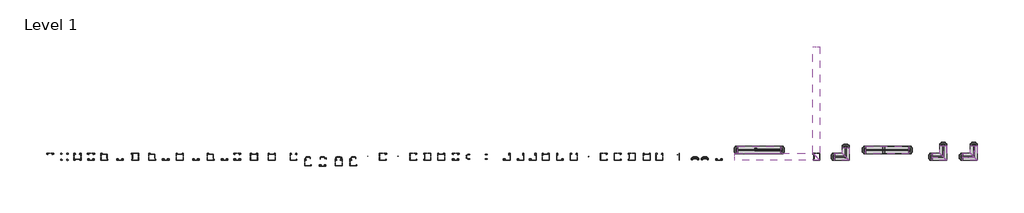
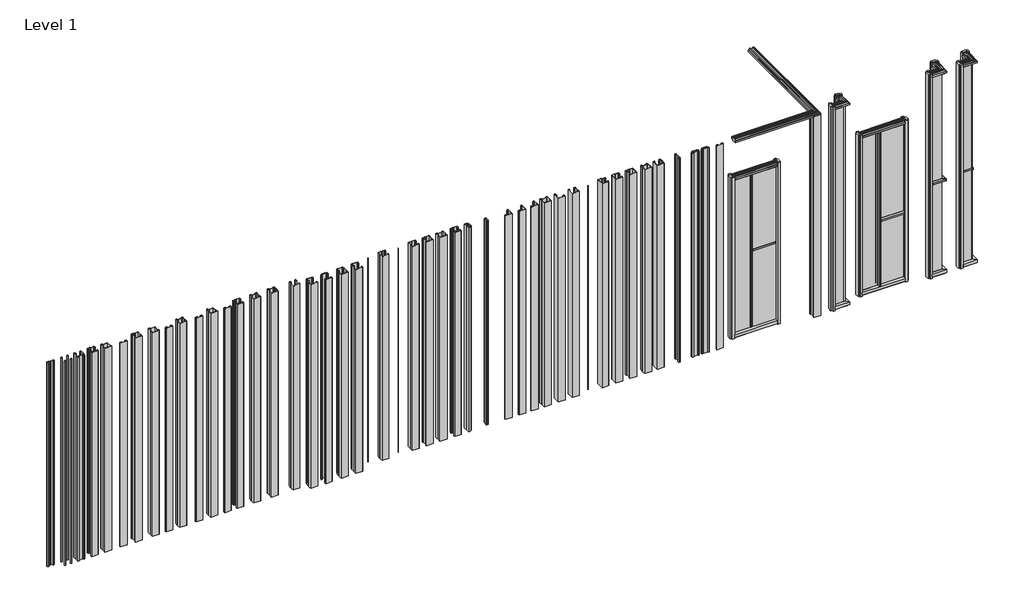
# One storey, incomplete: 56 proxies, 26 members, 8 plates.
"""IFC4 building model written with IfcOpenShell, lengths in millimetres."""

from ifc_helpers import new_model, si_unit, origin, place, context, project, spatial, transform, mapped, element, save
from components import specialty_equipment_b94d245f, specialty_equipment_ea2fe624, proxy_9eafbba1, proxy_e6fe210e, proxy_12dd4dbe, proxy_998302b4, proxy_84fde4b8, proxy_25b1dbf0, proxy_bac09f52, adjustable_wall_start_faf12ad4, four_way_corner_8f550bc9, four_way_corner_5c2fb71b, four_way_corner_39b8d94a, three_way_corner_fe799c1e, three_way_corner_d6935a31, three_way_corner_fe4747e2, three_way_corner_7945eaf1, three_way_corner_3e60445e, three_way_corner_72895751, three_way_corner_51c922a8, three_way_corner_6a6f1a06, three_way_corner_eebd27aa, three_way_corner_18708fa8, three_way_corner_7981b0c4, three_way_corner_01890268, three_way_corner_c96b7194, two_way_corner_7eccfd8a, two_way_corner_8ffb6a9a, two_way_corner_f09944fd, two_way_corner_8ae697bf, two_way_corner_glass_c5241fdb, two_way_corner_b0e117d9, two_way_corner_f22c8f03, two_way_corner_91326013, two_way_corner_door_7322761b, two_way_corner_glass_e2119c69, wall_end_e3b99592, rectangular_mullion_f105aa23, rectangular_mullion_df59ae26, rectangular_mullion_9636eab6, rectangular_mullion_f3ed77f7, rectangular_mullion_d365c215, rectangular_mullion_94d12410, rectangular_mullion_07ef781c, rectangular_mullion_2ec5124e, rectangular_mullion_b762e609, rectangular_mullion_7787aef6, fzg_35d74fef, fzg_7c3ae848, fzg_a8049be1

model = new_model("IFC4")

# Units and contexts
model_context = context("Model", 3, world=origin())
ifc_project = project(units=[si_unit("LENGTHUNIT", "METRE", prefix="MILLI")], contexts=[model_context])

# Site, building, storey
site = spatial("IfcSite", under=ifc_project)
building = spatial("IfcBuilding", under=site)
storey = spatial("IfcBuildingStorey", under=building, Name="Level 1", Elevation=0.0)

# Proxies
placement = place(None, origin())
specialty_equipment_shape = specialty_equipment_b94d245f(model_context)
element("IfcBuildingElementProxy", 1, Name="Mullion-Ceiling_Top_Spacer-Teknion-OptoLP-45º_Corner : FZFP and FYFC", ObjectType="Mullion-Ceiling_Top_Spacer-Teknion-OptoLP-45º_Corner : FZFP and FYFC", at=placement, inside=storey, context=model_context, shape_type="MappedRepresentation", body=[
    mapped(specialty_equipment_shape, transform((4725.8864881, 1727.616931, 2985.389), x_axis=(0.0, 1.0000000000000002, 0.0), y_axis=(-1.0000000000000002, 0.0, 0.0), z_axis=(0.0, 0.0, 1.0))),
])
specialty_equipment_2_shape = specialty_equipment_ea2fe624(model_context)
element("IfcBuildingElementProxy", 2, Name="Mullion-Ceiling_Top_Spacer-Teknion-OptoLP-45º_Corner : FZFP and FYFC", ObjectType="Mullion-Ceiling_Top_Spacer-Teknion-OptoLP-45º_Corner : FZFP and FYFC", at=placement, inside=storey, context=model_context, shape_type="MappedRepresentation", body=[
    mapped(specialty_equipment_2_shape, transform((4802.861326, 1804.578931, 2985.391839), x_axis=(-1.0, 0.0, 0.0), y_axis=(0.0, -1.0, 0.0), z_axis=(0.0, 0.0, 1.0))),
])
proxy_shape = proxy_9eafbba1(model_context)
element("IfcBuildingElementProxy", 3, Name="Frame-Teknion-Architectural_Complements-FCMV_1x1_Corner_Mullion-R2018 : 1\" x 1\" Corner Mullion", ObjectType="Frame-Teknion-Architectural_Complements-FCMV_1x1_Corner_Mullion-R2018 : 1\" x 1\" Corner Mullion", at=placement, inside=storey, context=model_context, shape_type="MappedRepresentation", body=[
    mapped(proxy_shape, transform((5218.9016423, 1722.613131, 1530.4556931), x_axis=(-1.0, 0.0, 0.0), y_axis=(0.0, 0.0, -1.0), z_axis=(0.0, -1.0, 0.0))),
])
proxy_2_shape = proxy_e6fe210e(model_context)
element("IfcBuildingElementProxy", 4, Name="Frame-Teknion-Architectural_Complements-FCMN_1x1_Mullion-R2016 : 1\" x 1\" Inline Mullion", ObjectType="Frame-Teknion-Architectural_Complements-FCMN_1x1_Mullion-R2016 : 1\" x 1\" Inline Mullion", at=placement, inside=storey, context=model_context, shape_type="MappedRepresentation", body=[
    mapped(proxy_2_shape, transform((4131.2860808, 1817.863131, 1203.4641751), x_axis=(0.0, 0.0, -1.0), y_axis=(1.0, 0.0, 0.0), z_axis=(0.0, -1.0, 0.0))),
])
proxy_3_shape = proxy_12dd4dbe(model_context)
element("IfcBuildingElementProxy", 5, Name="Frame-Teknion-Architectural_Complements-FCMN_1x1_Mullion-R2016 : 1\" x 1\" Inline Mullion", ObjectType="Frame-Teknion-Architectural_Complements-FCMN_1x1_Mullion-R2016 : 1\" x 1\" Inline Mullion", at=placement, inside=storey, context=model_context, shape_type="MappedRepresentation", body=[
    mapped(proxy_3_shape, transform((3950.2478423, 1817.863131, 1203.4641751), x_axis=(-1.0, 0.0, 0.0), y_axis=(0.0, 0.0, -1.0), z_axis=(0.0, -1.0, 0.0))),
])
proxy_4_shape = proxy_998302b4(model_context)
element("IfcBuildingElementProxy", 6, Name="Frame-Teknion-Architectural_Complements-FCMH_1x1_Mullion_Horizontal_Corner-R2018 : 1\" x 1\" Mullion Horizontal Corner Kit", ObjectType="Frame-Teknion-Architectural_Complements-FCMH_1x1_Mullion_Horizontal_Corner-R2018 : 1\" x 1\" Mullion Horizontal Corner Kit", at=placement, inside=storey, context=model_context, shape_type="MappedRepresentation", body=[
    mapped(proxy_4_shape, transform((7023.8638825, 1722.613131, 1408.4082097), x_axis=(0.0, 0.0, -1.0), y_axis=(1.0, 0.0, 0.0), z_axis=(0.0, -1.0, 0.0))),
])
proxy_5_shape = proxy_84fde4b8(model_context)
element("IfcBuildingElementProxy", 7, Name="Frame-Teknion-Architectural_Complements-FCMZ_4x1_Mullion_Horizontal_Corner-R2018 : 4\" x 1\" Horizontal Corner Kit", ObjectType="Frame-Teknion-Architectural_Complements-FCMZ_4x1_Mullion_Horizontal_Corner-R2018 : 4\" x 1\" Horizontal Corner Kit", at=placement, inside=storey, context=model_context, shape_type="MappedRepresentation", body=[
    mapped(proxy_5_shape, transform((6590.5969548, 1722.613131, 1400.4096021), x_axis=(0.0, 0.0, -1.0), y_axis=(1.0, 0.0, 0.0), z_axis=(0.0, -1.0, 0.0))),
])
proxy_6_shape = proxy_25b1dbf0(model_context)
element("IfcBuildingElementProxy", 8, Name="Frame-Teknion-Architectural_Complements-FCMI_4x1_Mullion-R2016 : 4\" x 1\" Inline Mullion", ObjectType="Frame-Teknion-Architectural_Complements-FCMI_4x1_Mullion-R2016 : 4\" x 1\" Inline Mullion", at=placement, inside=storey, context=model_context, shape_type="MappedRepresentation", body=[
    mapped(proxy_6_shape, transform((5749.2822173, 1817.863131, 1203.4242187), x_axis=(-1.0, 0.0, 0.0), y_axis=(0.0, 0.0, -1.0), z_axis=(0.0, -1.0, 0.0))),
])
proxy_7_shape = proxy_bac09f52(model_context)
element("IfcBuildingElementProxy", 9, Name="Frame-Teknion-Architectural_Complements-FCMI_4x1_Mullion-R2016 : 4\" x 1\" Inline Mullion", ObjectType="Frame-Teknion-Architectural_Complements-FCMI_4x1_Mullion-R2016 : 4\" x 1\" Inline Mullion", at=placement, inside=storey, context=model_context, shape_type="MappedRepresentation", body=[
    mapped(proxy_7_shape, transform((5932.8871464, 1817.863131, 1035.7670467), x_axis=(0.0, 0.0, 1.0), y_axis=(-1.0, 0.0, 0.0), z_axis=(0.0, -1.0, 0.0))),
])
adjustable_wall_start_shape = adjustable_wall_start_faf12ad4(model_context)
element("IfcBuildingElementProxy", 10, Name="Connection-Wall_Start-Teknion-Optos-FZWS-R2021 : Adjustable Wall Start", ObjectType="Connection-Wall_Start-Teknion-Optos-FZWS-R2021 : Adjustable Wall Start", at=placement, inside=storey, context=model_context, shape_type="MappedRepresentation", body=[
    mapped(adjustable_wall_start_shape, transform((3095.6598109, 1727.616931, 0.0), x_axis=(0.0, -1.0, 0.0), y_axis=(1.0, 0.0, 0.0), z_axis=(0.0, 0.0, 1.0))),
])
element("IfcBuildingElementProxy", 11, Name="Connection-Wall_Start-Teknion-Optos-FXWS-R2021 : Adjustable Wall Start", ObjectType="Connection-Wall_Start-Teknion-Optos-FXWS-R2021 : Adjustable Wall Start", at=placement, inside=storey, context=model_context, shape_type="MappedRepresentation", body=[
    mapped(adjustable_wall_start_shape, transform((3234.0597522, 1727.616931, 0.0), x_axis=(0.0, -1.0, 0.0), y_axis=(1.0, 0.0, 0.0), z_axis=(0.0, 0.0, 1.0))),
])
four_way_corner_shape = four_way_corner_8f550bc9(model_context)
element("IfcBuildingElementProxy", 12, Name="Connection-Corner-Teknion-OptosLP-Four_Way_FZCA4B_B : Four Way Corner", ObjectType="Connection-Corner-Teknion-OptosLP-Four_Way_FZCA4B_B : Four Way Corner", at=placement, inside=storey, context=model_context, shape_type="MappedRepresentation", body=[
    mapped(four_way_corner_shape, transform((-5973.3291008, 1727.616931, 939.8), x_axis=(1.0, 0.0, 0.0), y_axis=(0.0, 1.0, 0.0), z_axis=(0.0, 0.0, 1.0))),
])
four_way_corner_2_shape = four_way_corner_5c2fb71b(model_context)
element("IfcBuildingElementProxy", 13, Name="Connection-Corner-Teknion-OptosLP-Four_Way_FZCA4B_D : Four Way Corner", ObjectType="Connection-Corner-Teknion-OptosLP-Four_Way_FZCA4B_D : Four Way Corner", at=placement, inside=storey, context=model_context, shape_type="MappedRepresentation", body=[
    mapped(four_way_corner_2_shape, transform((-5772.10044, 1727.616931, 0.0), x_axis=(1.0, 0.0, 0.0), y_axis=(0.0, 1.0, 0.0), z_axis=(0.0, 0.0, 1.0))),
])
four_way_corner_3_shape = four_way_corner_39b8d94a(model_context)
element("IfcBuildingElementProxy", 14, Name="Connection-Corner-Teknion-OptosLP-Four_Way_FZCA4B_G : Four Way Corner", ObjectType="Connection-Corner-Teknion-OptosLP-Four_Way_FZCA4B_G : Four Way Corner", at=placement, inside=storey, context=model_context, shape_type="MappedRepresentation", body=[
    mapped(four_way_corner_3_shape, transform((-5588.9323759, 1727.616931, 0.0), x_axis=(1.0, 0.0, 0.0), y_axis=(0.0, 1.0, 0.0), z_axis=(0.0, 0.0, 1.0))),
])
three_way_corner_shape = three_way_corner_fe799c1e(model_context)
element("IfcBuildingElementProxy", 15, Name="Connection-Corner-Teknion-OptosLP-Three_Way_FZCA3A_B : Three Way Corner", ObjectType="Connection-Corner-Teknion-OptosLP-Three_Way_FZCA3A_B : Three Way Corner", at=placement, inside=storey, context=model_context, shape_type="MappedRepresentation", body=[
    mapped(three_way_corner_shape, transform((-5397.6833678, 1727.616931, 0.0), x_axis=(1.0, 0.0, 0.0), y_axis=(0.0, 1.0, 0.0), z_axis=(0.0, 0.0, 1.0))),
])
three_way_corner_2_shape = three_way_corner_d6935a31(model_context)
element("IfcBuildingElementProxy", 16, Name="Connection-Corner-Teknion-OptosLP-Three_Way_FZCA3A_C : Three Way Corner", ObjectType="Connection-Corner-Teknion-OptosLP-Three_Way_FZCA3A_C : Three Way Corner", at=placement, inside=storey, context=model_context, shape_type="MappedRepresentation", body=[
    mapped(three_way_corner_2_shape, transform((-5207.7811837, 1727.616931, 0.0), x_axis=(1.0, 0.0, 0.0), y_axis=(0.0, 1.0, 0.0), z_axis=(0.0, 0.0, 1.0))),
])
three_way_corner_3_shape = three_way_corner_fe4747e2(model_context)
element("IfcBuildingElementProxy", 17, Name="Connection-Corner-Teknion-OptosLP-Three_Way_FZCA3A_D : Three Way Corner", ObjectType="Connection-Corner-Teknion-OptosLP-Three_Way_FZCA3A_D : Three Way Corner", at=placement, inside=storey, context=model_context, shape_type="MappedRepresentation", body=[
    mapped(three_way_corner_3_shape, transform((-4989.5542891, 1727.616931, 0.0), x_axis=(1.0, 0.0, 0.0), y_axis=(0.0, 1.0, 0.0), z_axis=(0.0, 0.0, 1.0))),
])
three_way_corner_4_shape = three_way_corner_7945eaf1(model_context)
element("IfcBuildingElementProxy", 18, Name="Connection-Corner-Teknion-OptosLP-Three_Way_FZCA3A_G : Three Way Corner", ObjectType="Connection-Corner-Teknion-OptosLP-Three_Way_FZCA3A_G : Three Way Corner", at=placement, inside=storey, context=model_context, shape_type="MappedRepresentation", body=[
    mapped(three_way_corner_4_shape, transform((-4779.9055692, 1727.616931, 0.0), x_axis=(1.0, 0.0, 0.0), y_axis=(0.0, 1.0, 0.0), z_axis=(0.0, 0.0, 1.0))),
])
element("IfcBuildingElementProxy", 19, Name="Connection-Corner-Teknion-OptosLP-Three_Way_FZCA3B_B : Three Way Corner", ObjectType="Connection-Corner-Teknion-OptosLP-Three_Way_FZCA3B_B : Three Way Corner", at=placement, inside=storey, context=model_context, shape_type="MappedRepresentation", body=[
    mapped(three_way_corner_2_shape, transform((-4534.9227953, 1727.616931, 0.0), x_axis=(1.0, 0.0, 0.0), y_axis=(0.0, 1.0, 0.0), z_axis=(0.0, 0.0, 1.0))),
])
element("IfcBuildingElementProxy", 20, Name="Connection-Corner-Teknion-OptosLP-Three_Way_FZCA3B_D : Three Way Corner", ObjectType="Connection-Corner-Teknion-OptosLP-Three_Way_FZCA3B_D : Three Way Corner", at=placement, inside=storey, context=model_context, shape_type="MappedRepresentation", body=[
    mapped(three_way_corner_3_shape, transform((-4346.8690713, 1727.616931, 0.0), x_axis=(1.0, 0.0, 0.0), y_axis=(0.0, 1.0, 0.0), z_axis=(0.0, 0.0, 1.0))),
])
three_way_corner_5_shape = three_way_corner_3e60445e(model_context)
element("IfcBuildingElementProxy", 21, Name="Connection-Corner-Teknion-OptosLP-Three_Way_FZCA3B_G : Three Way Corner", ObjectType="Connection-Corner-Teknion-OptosLP-Three_Way_FZCA3B_G : Three Way Corner", at=placement, inside=storey, context=model_context, shape_type="MappedRepresentation", body=[
    mapped(three_way_corner_5_shape, transform((-4150.2296929, 1727.616931, 0.0), x_axis=(1.0, 0.0, 0.0), y_axis=(0.0, 1.0, 0.0), z_axis=(0.0, 0.0, 1.0))),
])
element("IfcBuildingElementProxy", 22, Name="Connection-Corner-Teknion-OptosLP-Three_Way_FZCA3C_D : Three Way Corner", ObjectType="Connection-Corner-Teknion-OptosLP-Three_Way_FZCA3C_D : Three Way Corner", at=placement, inside=storey, context=model_context, shape_type="MappedRepresentation", body=[
    mapped(three_way_corner_3_shape, transform((-3922.7693131, 1727.616931, 0.0), x_axis=(1.0, 0.0, 0.0), y_axis=(0.0, 1.0, 0.0), z_axis=(0.0, 0.0, 1.0))),
])
element("IfcBuildingElementProxy", 23, Name="Connection-Corner-Teknion-OptosLP-Three_Way_FZCA3C_G : Three Way Corner", ObjectType="Connection-Corner-Teknion-OptosLP-Three_Way_FZCA3C_G : Three Way Corner", at=placement, inside=storey, context=model_context, shape_type="MappedRepresentation", body=[
    mapped(three_way_corner_2_shape, transform((-3712.9804706, 1727.616931, 0.0), x_axis=(1.0, 0.0, 0.0), y_axis=(0.0, 1.0, 0.0), z_axis=(0.0, 0.0, 1.0))),
])
element("IfcBuildingElementProxy", 24, Name="Connection-Corner-Teknion-OptosLP-Three_Way_FZCA3D_D : Three Way Corner", ObjectType="Connection-Corner-Teknion-OptosLP-Three_Way_FZCA3D_D : Three Way Corner", at=placement, inside=storey, context=model_context, shape_type="MappedRepresentation", body=[
    mapped(three_way_corner_3_shape, transform((-3519.4859072, 1727.616931, 0.0), x_axis=(1.0, 0.0, 0.0), y_axis=(0.0, 1.0, 0.0), z_axis=(0.0, 0.0, 1.0))),
])
element("IfcBuildingElementProxy", 25, Name="Connection-Corner-Teknion-OptosLP-Three_Way_FZCA3D_G : Three Way Corner", ObjectType="Connection-Corner-Teknion-OptosLP-Three_Way_FZCA3D_G : Three Way Corner", at=placement, inside=storey, context=model_context, shape_type="MappedRepresentation", body=[
    mapped(three_way_corner_shape, transform((-3342.2856227, 1727.616931, 0.0), x_axis=(1.0, 0.0, 0.0), y_axis=(0.0, 1.0, 0.0), z_axis=(0.0, 0.0, 1.0))),
])
three_way_corner_6_shape = three_way_corner_72895751(model_context)
element("IfcBuildingElementProxy", 26, Name="Connection-Corner-Teknion-OptosLP-Three_Way_FZCA3E_S : Three Way Corner", ObjectType="Connection-Corner-Teknion-OptosLP-Three_Way_FZCA3E_S : Three Way Corner", at=placement, inside=storey, context=model_context, shape_type="MappedRepresentation", body=[
    mapped(three_way_corner_6_shape, transform((-2549.9212336, 1727.616931, 0.0), x_axis=(1.0, 0.0, 0.0), y_axis=(0.0, 1.0, 0.0), z_axis=(0.0, 0.0, 1.0))),
])
three_way_corner_7_shape = three_way_corner_51c922a8(model_context)
element("IfcBuildingElementProxy", 27, Name="Connection-Corner-Teknion-OptosLP-Three_Way_FZCD3_A : Three Way Corner", ObjectType="Connection-Corner-Teknion-OptosLP-Three_Way_FZCD3_A : Three Way Corner", at=placement, inside=storey, context=model_context, shape_type="MappedRepresentation", body=[
    mapped(three_way_corner_7_shape, transform((-2347.3120579, 1648.7797242, 0.0), x_axis=(1.0, 0.0, 0.0), y_axis=(0.0, 1.0, 0.0), z_axis=(0.0, 0.0, 1.0))),
])
three_way_corner_8_shape = three_way_corner_6a6f1a06(model_context)
element("IfcBuildingElementProxy", 28, Name="Connection-Corner-Teknion-OptosLP-Three_Way_FZCD3_B : Three Way Corner", ObjectType="Connection-Corner-Teknion-OptosLP-Three_Way_FZCD3_B : Three Way Corner", at=placement, inside=storey, context=model_context, shape_type="MappedRepresentation", body=[
    mapped(three_way_corner_8_shape, transform((-2141.1894282, 1644.3513139, 0.0), x_axis=(1.0, 0.0, 0.0), y_axis=(0.0, 1.0, 0.0), z_axis=(0.0, 0.0, 1.0))),
])
three_way_corner_9_shape = three_way_corner_eebd27aa(model_context)
element("IfcBuildingElementProxy", 29, Name="Connection-Corner-Teknion-OptosLP-Three_Way_FZCD3_G : Three Way Corner", ObjectType="Connection-Corner-Teknion-OptosLP-Three_Way_FZCD3_G : Three Way Corner", at=placement, inside=storey, context=model_context, shape_type="MappedRepresentation", body=[
    mapped(three_way_corner_9_shape, transform((-1915.7362077, 1649.1390961, 0.0), x_axis=(1.0, 0.0, 0.0), y_axis=(0.0, 1.0, 0.0), z_axis=(0.0, 0.0, 1.0))),
])
three_way_corner_10_shape = three_way_corner_18708fa8(model_context)
element("IfcBuildingElementProxy", 30, Name="Connection-Corner-Teknion-OptosLP-Three_Way_FZCY3_E : Three Way Corner", ObjectType="Connection-Corner-Teknion-OptosLP-Three_Way_FZCY3_E : Three Way Corner", at=placement, inside=storey, context=model_context, shape_type="MappedRepresentation", body=[
    mapped(three_way_corner_10_shape, transform((-1291.8744567, 1727.616931, 0.0), x_axis=(1.0, 0.0, 0.0), y_axis=(0.0, 1.0, 0.0), z_axis=(0.0, 0.0, 1.0))),
])
element("IfcBuildingElementProxy", 31, Name="Connection-Corner-Teknion-OptosLP-Three_Way_FZCY3E_S : Three Way Corner", ObjectType="Connection-Corner-Teknion-OptosLP-Three_Way_FZCY3E_S : Three Way Corner", at=placement, inside=storey, context=model_context, shape_type="MappedRepresentation", body=[
    mapped(three_way_corner_10_shape, transform((-864.4042304, 1727.616931, 0.0), x_axis=(1.0, 0.0, 0.0), y_axis=(0.0, 1.0, 0.0), z_axis=(0.0, 0.0, 1.0))),
])
element("IfcBuildingElementProxy", 32, Name="Connection-Corner-Teknion-OptosLP-Three_Way_FZCZ3A : Three Way Corner", ObjectType="Connection-Corner-Teknion-OptosLP-Three_Way_FZCZ3A : Three Way Corner", at=placement, inside=storey, context=model_context, shape_type="MappedRepresentation", body=[
    mapped(three_way_corner_4_shape, transform((-669.9931138, 1727.616931, 0.0), x_axis=(1.0, 0.0, 0.0), y_axis=(0.0, 1.0, 0.0), z_axis=(0.0, 0.0, 1.0))),
])
element("IfcBuildingElementProxy", 33, Name="Connection-Corner-Teknion-OptosLP-Three_Way_FZCZ3A_C : Three Way Corner", ObjectType="Connection-Corner-Teknion-OptosLP-Three_Way_FZCZ3A_C : Three Way Corner", at=placement, inside=storey, context=model_context, shape_type="MappedRepresentation", body=[
    mapped(three_way_corner_5_shape, transform((-474.4108458, 1727.616931, 0.0), x_axis=(1.0, 0.0, 0.0), y_axis=(0.0, 1.0, 0.0), z_axis=(0.0, 0.0, 1.0))),
])
three_way_corner_11_shape = three_way_corner_7981b0c4(model_context)
element("IfcBuildingElementProxy", 34, Name="Connection-Corner-Teknion-OptosLP-Three_Way_FZCZ3B : Three Way Corner", ObjectType="Connection-Corner-Teknion-OptosLP-Three_Way_FZCZ3B : Three Way Corner", at=placement, inside=storey, context=model_context, shape_type="MappedRepresentation", body=[
    mapped(three_way_corner_11_shape, transform((-270.6305187, 1727.616931, 0.0), x_axis=(1.0, 0.0, 0.0), y_axis=(0.0, 1.0, 0.0), z_axis=(0.0, 0.0, 1.0))),
])
element("IfcBuildingElementProxy", 35, Name="Connection-Corner-Teknion-OptosLP-Three_Way_FZCD3E : Three Way Corner", ObjectType="Connection-Corner-Teknion-OptosLP-Three_Way_FZCD3E : Three Way Corner", at=placement, inside=storey, context=model_context, shape_type="MappedRepresentation", body=[
    mapped(three_way_corner_7_shape, transform((-1708.7055663, 1648.7797242, 0.0), x_axis=(1.0, 0.0, 0.0), y_axis=(0.0, 1.0, 0.0), z_axis=(0.0, 0.0, 1.0))),
])
three_way_corner_12_shape = three_way_corner_01890268(model_context)
element("IfcBuildingElementProxy", 36, Name="Connection-Corner-Teknion-OptosLP-Three_Way_FZCY3 : Three Way Corner", ObjectType="Connection-Corner-Teknion-OptosLP-Three_Way_FZCY3 : Three Way Corner", at=placement, inside=storey, context=model_context, shape_type="MappedRepresentation", body=[
    mapped(three_way_corner_12_shape, transform((-1506.1951456, 1727.616931, 0.0), x_axis=(1.0, 0.0, 0.0), y_axis=(0.0, 1.0, 0.0), z_axis=(0.0, 0.0, 1.0))),
])
three_way_corner_13_shape = three_way_corner_c96b7194(model_context)
element("IfcBuildingElementProxy", 37, Name="Connection-Corner-Teknion-OptosLP-Three_Way_FZCY3D : Three Way Corner", ObjectType="Connection-Corner-Teknion-OptosLP-Three_Way_FZCY3D : Three Way Corner", at=placement, inside=storey, context=model_context, shape_type="MappedRepresentation", body=[
    mapped(three_way_corner_13_shape, transform((-1081.0672218, 1727.616931, 0.0), x_axis=(1.0, 0.0, 0.0), y_axis=(0.0, 1.0, 0.0), z_axis=(0.0, 0.0, 1.0))),
])
element("IfcBuildingElementProxy", 38, Name="Connection-Corner-Teknion-OptosLP-Three_Way_FZCA3C_B : Three Way Corner", ObjectType="Connection-Corner-Teknion-OptosLP-Three_Way_FZCA3C_B : Three Way Corner", at=placement, inside=storey, context=model_context, shape_type="MappedRepresentation", body=[
    mapped(three_way_corner_3_shape, transform((3433.1545313, 1727.616931, 0.0), x_axis=(1.0, 0.0, 0.0), y_axis=(0.0, 1.0, 0.0), z_axis=(0.0, 0.0, 1.0))),
])
element("IfcBuildingElementProxy", 39, Name="Connection-Corner-Teknion-OptosLP-Three_Way_FZCA3E_E : Three Way Corner, One Door", ObjectType="Connection-Corner-Teknion-OptosLP-Three_Way_FZCA3E_E : Three Way Corner, One Door", at=placement, inside=storey, context=model_context, shape_type="MappedRepresentation", body=[
    mapped(three_way_corner_5_shape, transform((-3105.895606, 1727.616931, 0.0), x_axis=(1.0, 0.0, 0.0), y_axis=(0.0, 1.0, 0.0), z_axis=(0.0, 0.0, 1.0))),
])
element("IfcBuildingElementProxy", 40, Name="Connection-Corner-Teknion-OptosLP-Three_Way_FZCA3E_E : Three Way Corner, Two Doors", ObjectType="Connection-Corner-Teknion-OptosLP-Three_Way_FZCA3E_E : Three Way Corner, Two Doors", at=placement, inside=storey, context=model_context, shape_type="MappedRepresentation", body=[
    mapped(three_way_corner_5_shape, transform((-2856.3899919, 1727.616931, 0.0), x_axis=(1.0, 0.0, 0.0), y_axis=(0.0, 1.0, 0.0), z_axis=(0.0, 0.0, 1.0))),
])
two_way_corner_shape = two_way_corner_7eccfd8a(model_context)
element("IfcBuildingElementProxy", 41, Name="Connection-Corner-Teknion-OptosLP-Two_Way_FZCD2_D : Two Way Corner", ObjectType="Connection-Corner-Teknion-OptosLP-Two_Way_FZCD2_D : Two Way Corner", at=placement, inside=storey, context=model_context, shape_type="MappedRepresentation", body=[
    mapped(two_way_corner_shape, transform((1197.6077953, 1727.616931, 0.0), x_axis=(1.0, 0.0, 0.0), y_axis=(0.0, 1.0, 0.0), z_axis=(0.0, 0.0, 1.0))),
])
two_way_corner_2_shape = two_way_corner_8ffb6a9a(model_context)
element("IfcBuildingElementProxy", 42, Name="Connection-Corner-Teknion-OptosLP-Two_Way_FZCD2_G : Two Way Corner", ObjectType="Connection-Corner-Teknion-OptosLP-Two_Way_FZCD2_G : Two Way Corner", at=placement, inside=storey, context=model_context, shape_type="MappedRepresentation", body=[
    mapped(two_way_corner_2_shape, transform((1392.8972754, 1727.616931, 0.0), x_axis=(1.0, 0.0, 0.0), y_axis=(0.0, 1.0, 0.0), z_axis=(0.0, 0.0, 1.0))),
])
two_way_corner_3_shape = two_way_corner_f09944fd(model_context)
element("IfcBuildingElementProxy", 43, Name="Connection-Corner-Teknion-OptosLP-Two_Way_FZCY2E_E : Two Way Corner", ObjectType="Connection-Corner-Teknion-OptosLP-Two_Way_FZCY2E_E : Two Way Corner", at=placement, inside=storey, context=model_context, shape_type="MappedRepresentation", body=[
    mapped(two_way_corner_3_shape, transform((1814.4531877, 1727.616931, 0.0), x_axis=(1.0, 0.0, 0.0), y_axis=(0.0, 1.0, 0.0), z_axis=(0.0, 0.0, 1.0))),
])
element("IfcBuildingElementProxy", 44, Name="Connection-Corner-Teknion-OptosLP-Two_Way_FZCY2E_S : Two Way Corner", ObjectType="Connection-Corner-Teknion-OptosLP-Two_Way_FZCY2E_S : Two Way Corner", at=placement, inside=storey, context=model_context, shape_type="MappedRepresentation", body=[
    mapped(two_way_corner_3_shape, transform((2009.7426678, 1727.616931, 0.0), x_axis=(1.0, 0.0, 0.0), y_axis=(0.0, 1.0, 0.0), z_axis=(0.0, 0.0, 1.0))),
])
two_way_corner_4_shape = two_way_corner_8ae697bf(model_context)
element("IfcBuildingElementProxy", 45, Name="Connection-Corner-Teknion-OptosLP-Two_Way_FZCZ2 : Two Way Corner", ObjectType="Connection-Corner-Teknion-OptosLP-Two_Way_FZCZ2 : Two Way Corner", at=placement, inside=storey, context=model_context, shape_type="MappedRepresentation", body=[
    mapped(two_way_corner_4_shape, transform((2203.6853239, 1727.616931, 0.0), x_axis=(1.0, 0.0, 0.0), y_axis=(0.0, 1.0, 0.0), z_axis=(0.0, 0.0, 1.0))),
])
two_way_corner_glass_shape = two_way_corner_glass_c5241fdb(model_context)
element("IfcBuildingElementProxy", 46, Name="Connection-Corner-Teknion-OptosLP_Two_Way_FZCA2E : Two Way Corner", ObjectType="Connection-Corner-Teknion-OptosLP_Two_Way_FZCA2E : Two Way Corner", at=placement, inside=storey, context=model_context, shape_type="MappedRepresentation", body=[
    mapped(two_way_corner_glass_shape, transform((2416.483516, 1727.616931, 0.0), x_axis=(1.0, 0.0, 0.0), y_axis=(0.0, 1.0, 0.0), z_axis=(0.0, 0.0, 1.0))),
])
two_way_corner_5_shape = two_way_corner_b0e117d9(model_context)
element("IfcBuildingElementProxy", 47, Name="Connection-Corner-Teknion-OptosLP-Two_Way_FZCZ2 : Two Way Corner", ObjectType="Connection-Corner-Teknion-OptosLP-Two_Way_FZCZ2 : Two Way Corner", at=placement, inside=storey, context=model_context, shape_type="MappedRepresentation", body=[
    mapped(two_way_corner_5_shape, transform((4802.8865879, 1727.616931, 0.0), x_axis=(1.0, 0.0, 0.0), y_axis=(0.0, 1.0, 0.0), z_axis=(0.0, 0.0, 1.0))),
])
element("IfcBuildingElementProxy", 48, Name="Connection-Two_Way-Teknion-OptosLP-FZCD2E : Two Way Corner", ObjectType="Connection-Two_Way-Teknion-OptosLP-FZCD2E : Two Way Corner", at=placement, inside=storey, context=model_context, shape_type="MappedRepresentation", body=[
    mapped(two_way_corner_2_shape, transform((2595.8750834, 1727.616931, 0.0), x_axis=(1.0, 0.0, 0.0), y_axis=(0.0, 1.0, 0.0), z_axis=(0.0, 0.0, 1.0))),
])
two_way_corner_6_shape = two_way_corner_f22c8f03(model_context)
element("IfcBuildingElementProxy", 49, Name="Connection-Corner-Teknion-OptosLP-Two_Way_FZCY2 : Two Way Corner", ObjectType="Connection-Corner-Teknion-OptosLP-Two_Way_FZCY2 : Two Way Corner", at=placement, inside=storey, context=model_context, shape_type="MappedRepresentation", body=[
    mapped(two_way_corner_6_shape, transform((1601.6549956, 1727.616931, 0.0), x_axis=(1.0, 0.0, 0.0), y_axis=(0.0, 1.0, 0.0), z_axis=(0.0, 0.0, 1.0))),
])
two_way_corner_7_shape = two_way_corner_91326013(model_context)
element("IfcBuildingElementProxy", 50, Name="Connection-Corner-Teknion-Optos-Clerestory_Two_Way_Connection_W/Altos_Low_Profile-FZCCA2 : Two Way Corner", ObjectType="Connection-Corner-Teknion-Optos-Clerestory_Two_Way_Connection_W/Altos_Low_Profile-FZCCA2 : Two Way Corner", at=placement, inside=storey, context=model_context, shape_type="MappedRepresentation", body=[
    mapped(two_way_corner_7_shape, transform((642.1504708, 1727.616931, 0.0), x_axis=(1.0, 0.0, 0.0), y_axis=(0.0, 1.0, 0.0), z_axis=(0.0, 0.0, 1.0))),
])
element("IfcBuildingElementProxy", 51, Name="Connection-Corner-Teknion-Optos-12mm_Clerestory_Two_Way_Connection_W/Altoa-FXCCA2 : Two Way Corner", ObjectType="Connection-Corner-Teknion-Optos-12mm_Clerestory_Two_Way_Connection_W/Altoa-FXCCA2 : Two Way Corner", at=placement, inside=storey, context=model_context, shape_type="MappedRepresentation", body=[
    mapped(two_way_corner_7_shape, transform((448.4630374, 1727.616931, 0.0), x_axis=(1.0, 0.0, 0.0), y_axis=(0.0, 1.0, 0.0), z_axis=(0.0, 0.0, 1.0))),
])
element("IfcBuildingElementProxy", 52, Name="Connection-Corner-Teknion-OptosLP-Two_Way_FZCA2 : Two Way Corner Door", ObjectType="Connection-Corner-Teknion-OptosLP-Two_Way_FZCA2 : Two Way Corner Door", at=placement, inside=storey, context=model_context, shape_type="MappedRepresentation", body=[
    mapped(two_way_corner_7_shape, transform((815.1097791, 1727.616931, 0.0), x_axis=(1.0, 0.0, 0.0), y_axis=(0.0, 1.0, 0.0), z_axis=(0.0, 0.0, 1.0))),
])
two_way_corner_door_shape = two_way_corner_door_7322761b(model_context)
element("IfcBuildingElementProxy", 53, Name="Connection-Corner-Teknion-OptosLP-Two_Way_FZCA1 : Two Way Corner Door", ObjectType="Connection-Corner-Teknion-OptosLP-Two_Way_FZCA1 : Two Way Corner Door", at=placement, inside=storey, context=model_context, shape_type="MappedRepresentation", body=[
    mapped(two_way_corner_door_shape, transform((158.0108589, 1727.616931, 0.0), x_axis=(1.0, 0.0, 0.0), y_axis=(0.0, 1.0, 0.0), z_axis=(0.0, 0.0, 1.0))),
])
element("IfcBuildingElementProxy", 54, Name="Connection-Corner-Teknion-OptosLP-Two_Way_FZCA2 : Two Way Corner Glass", ObjectType="Connection-Corner-Teknion-OptosLP-Two_Way_FZCA2 : Two Way Corner Glass", at=placement, inside=storey, context=model_context, shape_type="MappedRepresentation", body=[
    mapped(two_way_corner_glass_shape, transform((995.5841952, 1727.616931, 0.0), x_axis=(1.0, 0.0, 0.0), y_axis=(0.0, 1.0, 0.0), z_axis=(0.0, 0.0, 1.0))),
])
two_way_corner_glass_2_shape = two_way_corner_glass_e2119c69(model_context)
element("IfcBuildingElementProxy", 55, Name="Connection-Corner-Teknion-OptosLP-Two_Way_FZCA1 : Two Way Corner Glass", ObjectType="Connection-Corner-Teknion-OptosLP-Two_Way_FZCA1 : Two Way Corner Glass", at=placement, inside=storey, context=model_context, shape_type="MappedRepresentation", body=[
    mapped(two_way_corner_glass_2_shape, transform((-84.4174612, 1727.616931, 0.0), x_axis=(1.0, 0.0, 0.0), y_axis=(0.0, 1.0, 0.0), z_axis=(0.0, 0.0, 1.0))),
])
wall_end_shape = wall_end_e3b99592(model_context)
element("IfcBuildingElementProxy", 56, Name="Connection-Wall_End-Teknion-OptosLP-FYFE : Wall End", ObjectType="Connection-Wall_End-Teknion-OptosLP-FYFE : Wall End", at=placement, inside=storey, context=model_context, shape_type="MappedRepresentation", body=[
    mapped(wall_end_shape, transform((2844.1217722, 1727.616931, 0.0), x_axis=(1.0, 0.0, 0.0), y_axis=(0.0, 1.0, 0.0), z_axis=(0.0, 0.0, 1.0))),
])

# Members
rectangular_mullion_shape = rectangular_mullion_f105aa23(model_context)
element("IfcMember", 57, ObjectType="Rectangular Mullion : Frame-Teknion-OptosLP-Ceiling_Top_Spacer", at=placement, inside=storey, context=model_context, shape_type="MappedRepresentation", body=[
    mapped(rectangular_mullion_shape, transform((4300.7386483, 1822.866931, 2411.187364), x_axis=(0.0, 0.0, 1.0), y_axis=(0.0, -1.0, 0.0), z_axis=(1.0, 0.0, 0.0))),
])
element("IfcMember", 58, ObjectType="Rectangular Mullion : Frame-Teknion-OptosLP-Ceiling_Top_Spacer", at=placement, inside=storey, context=model_context, shape_type="MappedRepresentation", body=[
    mapped(rectangular_mullion_shape, transform((6104.1386483, 1822.866931, 2411.187364), x_axis=(0.0, 0.0, 1.0), y_axis=(0.0, -1.0, 0.0), z_axis=(1.0, 0.0, 0.0))),
])
rectangular_mullion_2_shape = rectangular_mullion_df59ae26(model_context)
element("IfcMember", 59, ObjectType="Rectangular Mullion : Frame-Teknion-OptosLP-Base_Channel", at=placement, inside=storey, context=model_context, shape_type="MappedRepresentation", body=[
    mapped(rectangular_mullion_2_shape, transform((3695.0070362, 1822.866931, 0.0), x_axis=(0.0, 0.0, -1.0), y_axis=(0.0, -1.0, 0.0), z_axis=(-1.0, 0.0, 0.0))),
])
element("IfcMember", 60, ObjectType="Rectangular Mullion : Frame-Teknion-OptosLP-Base_Channel", at=placement, inside=storey, context=model_context, shape_type="MappedRepresentation", body=[
    mapped(rectangular_mullion_2_shape, transform((5498.4070362, 1822.866931, 0.0), x_axis=(0.0, 0.0, -1.0), y_axis=(0.0, -1.0, 0.0), z_axis=(-1.0, 0.0, 0.0))),
])
rectangular_mullion_3_shape = rectangular_mullion_9636eab6(model_context)
element("IfcMember", 61, ObjectType="Rectangular Mullion : Frame-Teknion-OptosLP-Vertical_Trim_Border_2", at=placement, inside=storey, context=model_context, shape_type="MappedRepresentation", body=[
    mapped(rectangular_mullion_3_shape, transform((4350.2978423, 1822.866931, 0.0), x_axis=(1.0, 0.0, 0.0), y_axis=(0.0, -1.0, 0.0), z_axis=(0.0, 0.0, -1.0))),
])
element("IfcMember", 62, ObjectType="Rectangular Mullion : Frame-Teknion-OptosLP-Vertical_Trim_Border_2", at=placement, inside=storey, context=model_context, shape_type="MappedRepresentation", body=[
    mapped(rectangular_mullion_3_shape, transform((6153.6978423, 1822.866931, 0.0), x_axis=(1.0, 0.0, 0.0), y_axis=(0.0, -1.0, 0.0), z_axis=(0.0, 0.0, -1.0))),
])
element("IfcMember", 63, ObjectType="Rectangular Mullion : Frame-Teknion-OptosLP-Vertical_Trim_Border_1", at=placement, inside=storey, context=model_context, shape_type="MappedRepresentation", body=[
    mapped(rectangular_mullion_3_shape, transform((3645.4478423, 1822.866931, 2411.187364), x_axis=(-1.0, 0.0, 0.0), y_axis=(0.0, -1.0, 0.0), z_axis=(0.0, 0.0, 1.0))),
])
element("IfcMember", 64, ObjectType="Rectangular Mullion : Frame-Teknion-OptosLP-Vertical_Trim_Border_1", at=placement, inside=storey, context=model_context, shape_type="MappedRepresentation", body=[
    mapped(rectangular_mullion_3_shape, transform((5448.8478423, 1822.866931, 2411.187364), x_axis=(-1.0, 0.0, 0.0), y_axis=(0.0, -1.0, 0.0), z_axis=(0.0, 0.0, 1.0))),
])
rectangular_mullion_4_shape = rectangular_mullion_f3ed77f7(model_context)
element("IfcMember", 65, ObjectType="Rectangular Mullion : Frame-Teknion-OptosLP-Ceiling_Top_Spacer", at=placement, inside=storey, context=model_context, shape_type="MappedRepresentation", body=[
    mapped(rectangular_mullion_4_shape, transform((5213.8978423, 1727.616931, 3048.0), x_axis=(0.0, 0.0, 1.0), y_axis=(0.0, -1.0, 0.0), z_axis=(1.0, 0.0, 0.0))),
])
rectangular_mullion_5_shape = rectangular_mullion_d365c215(model_context)
element("IfcMember", 66, ObjectType="Rectangular Mullion : Frame-Teknion-OptosLP-Base_Channel", at=placement, inside=storey, context=model_context, shape_type="MappedRepresentation", body=[
    mapped(rectangular_mullion_5_shape, transform((5060.2570362, 1727.616931, 0.0), x_axis=(0.0, 0.0, -1.0), y_axis=(0.0, -1.0, 0.0), z_axis=(-1.0, 0.0, 0.0))),
])
rectangular_mullion_6_shape = rectangular_mullion_94d12410(model_context)
element("IfcMember", 67, ObjectType="Rectangular Mullion : Frame-Teknion-OptosLP-Ceiling_Top_Spacer", at=placement, inside=storey, context=model_context, shape_type="MappedRepresentation", body=[
    mapped(rectangular_mullion_6_shape, transform((5213.8978423, 1855.857737, 3048.0), x_axis=(0.0, 0.0, 1.0), y_axis=(1.0, 0.0, 0.0), z_axis=(0.0, 1.0, 0.0))),
])
rectangular_mullion_7_shape = rectangular_mullion_07ef781c(model_context)
element("IfcMember", 68, ObjectType="Rectangular Mullion : Frame-Teknion-OptosLP-Base_Channel", at=placement, inside=storey, context=model_context, shape_type="MappedRepresentation", body=[
    mapped(rectangular_mullion_7_shape, transform((5213.8978423, 1727.616931, 0.0), x_axis=(0.0, 0.0, -1.0), y_axis=(1.0, 0.0, 0.0), z_axis=(0.0, -1.0, 0.0))),
])
rectangular_mullion_8_shape = rectangular_mullion_2ec5124e(model_context)
element("IfcMember", 69, ObjectType="Rectangular Mullion : Frame-Teknion-OptosLP-Vertical_Trim_Border_1", at=placement, inside=storey, context=model_context, shape_type="MappedRepresentation", body=[
    mapped(rectangular_mullion_8_shape, transform((5010.6978423, 1727.616931, 3048.0), x_axis=(-1.0, 0.0, 0.0), y_axis=(0.0, -1.0, 0.0), z_axis=(0.0, 0.0, 1.0))),
])
element("IfcMember", 70, ObjectType="Rectangular Mullion : Frame-Teknion-OptosLP-Vertical_Trim_Border_1", at=placement, inside=storey, context=model_context, shape_type="MappedRepresentation", body=[
    mapped(rectangular_mullion_8_shape, transform((6382.2978423, 1727.616931, 3048.0), x_axis=(-1.0, 0.0, 0.0), y_axis=(0.0, -1.0, 0.0), z_axis=(0.0, 0.0, 1.0))),
])
element("IfcMember", 71, ObjectType="Rectangular Mullion : Frame-Teknion-OptosLP-Vertical_Trim_Border_1", at=placement, inside=storey, context=model_context, shape_type="MappedRepresentation", body=[
    mapped(rectangular_mullion_8_shape, transform((6814.0978423, 1727.616931, 3048.0), x_axis=(-1.0, 0.0, 0.0), y_axis=(0.0, -1.0, 0.0), z_axis=(0.0, 0.0, 1.0))),
])
element("IfcMember", 72, ObjectType="Rectangular Mullion : Frame-Teknion-OptosLP-Vertical_Trim_Border_2", at=placement, inside=storey, context=model_context, shape_type="MappedRepresentation", body=[
    mapped(rectangular_mullion_8_shape, transform((5213.8978423, 1905.416931, 0.0), x_axis=(0.0, 1.0, 0.0), y_axis=(1.0, 0.0, 0.0), z_axis=(0.0, 0.0, -1.0))),
])
element("IfcMember", 73, ObjectType="Rectangular Mullion : Frame-Teknion-OptosLP-Vertical_Trim_Border_2", at=placement, inside=storey, context=model_context, shape_type="MappedRepresentation", body=[
    mapped(rectangular_mullion_8_shape, transform((6585.4978423, 1930.816931, 0.0), x_axis=(0.0, 1.0, 0.0), y_axis=(1.0, 0.0, 0.0), z_axis=(0.0, 0.0, -1.0))),
])
element("IfcMember", 74, ObjectType="Rectangular Mullion : Frame-Teknion-OptosLP-Vertical_Trim_Border_2", at=placement, inside=storey, context=model_context, shape_type="MappedRepresentation", body=[
    mapped(rectangular_mullion_8_shape, transform((7017.2978423, 1930.816931, 0.0), x_axis=(0.0, 1.0, 0.0), y_axis=(1.0, 0.0, 0.0), z_axis=(0.0, 0.0, -1.0))),
])
element("IfcMember", 75, ObjectType="Rectangular Mullion : Frame-Teknion-OptosLP-Ceiling_Top_Spacer", at=placement, inside=storey, context=model_context, shape_type="MappedRepresentation", body=[
    mapped(rectangular_mullion_4_shape, transform((6585.4978423, 1727.616931, 3048.0), x_axis=(0.0, 0.0, 1.0), y_axis=(0.0, -1.0, 0.0), z_axis=(1.0, 0.0, 0.0))),
])
element("IfcMember", 76, ObjectType="Rectangular Mullion : Frame-Teknion-OptosLP-Ceiling_Top_Spacer", at=placement, inside=storey, context=model_context, shape_type="MappedRepresentation", body=[
    mapped(rectangular_mullion_4_shape, transform((7017.2978423, 1727.616931, 3048.0), x_axis=(0.0, 0.0, 1.0), y_axis=(0.0, -1.0, 0.0), z_axis=(1.0, 0.0, 0.0))),
])
rectangular_mullion_9_shape = rectangular_mullion_b762e609(model_context)
element("IfcMember", 77, ObjectType="Rectangular Mullion : Frame-Teknion-OptosLP-Ceiling_Top_Spacer", at=placement, inside=storey, context=model_context, shape_type="MappedRepresentation", body=[
    mapped(rectangular_mullion_9_shape, transform((6585.4978423, 1881.257737, 3048.0), x_axis=(0.0, 0.0, 1.0), y_axis=(1.0, 0.0, 0.0), z_axis=(0.0, 1.0, 0.0))),
])
element("IfcMember", 78, ObjectType="Rectangular Mullion : Frame-Teknion-OptosLP-Ceiling_Top_Spacer", at=placement, inside=storey, context=model_context, shape_type="MappedRepresentation", body=[
    mapped(rectangular_mullion_9_shape, transform((7017.2978423, 1881.257737, 3048.0), x_axis=(0.0, 0.0, 1.0), y_axis=(1.0, 0.0, 0.0), z_axis=(0.0, 1.0, 0.0))),
])
element("IfcMember", 79, ObjectType="Rectangular Mullion : Frame-Teknion-OptosLP-Base_Channel", at=placement, inside=storey, context=model_context, shape_type="MappedRepresentation", body=[
    mapped(rectangular_mullion_5_shape, transform((6431.8570362, 1727.616931, 0.0), x_axis=(0.0, 0.0, -1.0), y_axis=(0.0, -1.0, 0.0), z_axis=(-1.0, 0.0, 0.0))),
])
element("IfcMember", 80, ObjectType="Rectangular Mullion : Frame-Teknion-OptosLP-Base_Channel", at=placement, inside=storey, context=model_context, shape_type="MappedRepresentation", body=[
    mapped(rectangular_mullion_5_shape, transform((6863.6570362, 1727.616931, 0.0), x_axis=(0.0, 0.0, -1.0), y_axis=(0.0, -1.0, 0.0), z_axis=(-1.0, 0.0, 0.0))),
])
rectangular_mullion_10_shape = rectangular_mullion_7787aef6(model_context)
element("IfcMember", 81, ObjectType="Rectangular Mullion : Frame-Teknion-OptosLP-Base_Channel", at=placement, inside=storey, context=model_context, shape_type="MappedRepresentation", body=[
    mapped(rectangular_mullion_10_shape, transform((6585.4978423, 1727.616931, 0.0), x_axis=(0.0, 0.0, -1.0), y_axis=(1.0, 0.0, 0.0), z_axis=(0.0, -1.0, 0.0))),
])
element("IfcMember", 82, ObjectType="Rectangular Mullion : Frame-Teknion-OptosLP-Base_Channel", at=placement, inside=storey, context=model_context, shape_type="MappedRepresentation", body=[
    mapped(rectangular_mullion_10_shape, transform((7017.2978423, 1727.616931, 0.0), x_axis=(0.0, 0.0, -1.0), y_axis=(1.0, 0.0, 0.0), z_axis=(0.0, -1.0, 0.0))),
])

# Plates
fzg_shape = fzg_35d74fef(model_context)
element("IfcPlate", 83, ObjectType="Panel-Glass-Teknion-OptosLP : FZG", at=placement, inside=storey, context=model_context, shape_type="MappedRepresentation", body=[
    mapped(fzg_shape, transform((3997.8728423, 1822.866931, 37.1824805), x_axis=(1.0, 0.0, 0.0), y_axis=(0.0, 1.0, 0.0), z_axis=(0.0, 0.0, 1.0))),
])
element("IfcPlate", 84, ObjectType="Panel-Glass-Teknion-OptosLP : FZG", at=placement, inside=storey, context=model_context, shape_type="MappedRepresentation", body=[
    mapped(fzg_shape, transform((5801.2728423, 1822.866931, 37.1824805), x_axis=(1.0, 0.0, 0.0), y_axis=(0.0, 1.0, 0.0), z_axis=(0.0, 0.0, 1.0))),
])
fzg_2_shape = fzg_7c3ae848(model_context)
element("IfcPlate", 85, ObjectType="Panel-Glass-Teknion-OptosLP : FZG", at=placement, inside=storey, context=model_context, shape_type="MappedRepresentation", body=[
    mapped(fzg_2_shape, transform((5126.2824388, 1727.616931, 37.1824805), x_axis=(1.0, 0.0, 0.0), y_axis=(0.0, 1.0, 0.0), z_axis=(0.0, 0.0, 1.0))),
])
element("IfcPlate", 86, ObjectType="Panel-Glass-Teknion-OptosLP : FZG", at=placement, inside=storey, context=model_context, shape_type="MappedRepresentation", body=[
    mapped(fzg_2_shape, transform((6497.8824388, 1727.616931, 37.1824805), x_axis=(1.0, 0.0, 0.0), y_axis=(0.0, 1.0, 0.0), z_axis=(0.0, 0.0, 1.0))),
])
element("IfcPlate", 87, ObjectType="Panel-Glass-Teknion-OptosLP : FZG", at=placement, inside=storey, context=model_context, shape_type="MappedRepresentation", body=[
    mapped(fzg_2_shape, transform((6585.4978423, 1815.2323345, 37.1824805), x_axis=(0.0, 1.0, 0.0), y_axis=(-1.0, 0.0, 0.0), z_axis=(0.0, 0.0, 1.0))),
])
element("IfcPlate", 88, ObjectType="Panel-Glass-Teknion-OptosLP : FZG", at=placement, inside=storey, context=model_context, shape_type="MappedRepresentation", body=[
    mapped(fzg_2_shape, transform((6929.6824388, 1727.616931, 37.1824805), x_axis=(1.0, 0.0, 0.0), y_axis=(0.0, 1.0, 0.0), z_axis=(0.0, 0.0, 1.0))),
])
element("IfcPlate", 89, ObjectType="Panel-Glass-Teknion-OptosLP : FZG", at=placement, inside=storey, context=model_context, shape_type="MappedRepresentation", body=[
    mapped(fzg_2_shape, transform((7017.2978423, 1815.2323345, 37.1824805), x_axis=(0.0, 1.0, 0.0), y_axis=(-1.0, 0.0, 0.0), z_axis=(0.0, 0.0, 1.0))),
])
fzg_3_shape = fzg_a8049be1(model_context)
element("IfcPlate", 90, ObjectType="Panel-Glass-Teknion-OptosLP : FZG", at=placement, inside=storey, context=model_context, shape_type="MappedRepresentation", body=[
    mapped(fzg_3_shape, transform((5213.8978423, 1802.5323345, 37.1824805), x_axis=(0.0, 1.0, 0.0), y_axis=(-1.0, 0.0, 0.0), z_axis=(0.0, 0.0, 1.0))),
])

save(model, "model.ifc")
